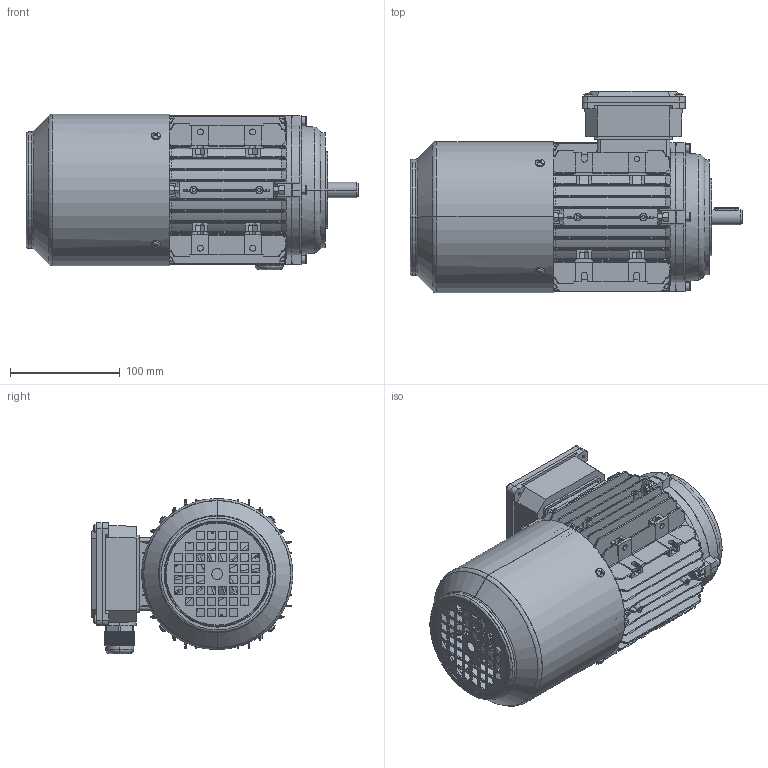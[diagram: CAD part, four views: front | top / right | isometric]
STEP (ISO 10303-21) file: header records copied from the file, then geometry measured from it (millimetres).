
FILE_DESCRIPTION (( 'STEP AP203' ), '1' );
FILE_NAME ('BM3-71 B14_o.STEP', '2024-04-25T08:27:00', ( '' ), ( '' ), 'SwSTEP 2.0', 'SolidWorks 2021', '' );
FILE_SCHEMA (( 'CONFIG_CONTROL_DESIGN' ));
Length unit declared in the file: millimetre
Products named in the file (16): TAN71 ____^BM3-71 B14_o(2)_BM3-71 B14_o; Hexagon nuts grade C GB_GB_FASTENER_NUT_SNC1 M5-N^BM3-71 B14_o(2)_BM3-71 B14_o; MS63-71 __________-1^BM3-71 B14_o(2)_BM3-71 B14_o; BM3-71 B14_o; 80-100________^BM3-71 B14_o(2)_BM3-71 B14_o; TAN71 B14__^BM3-71 B14_o(2)_BM3-71 B14_o; 71________^BM3-71 B14_o(2)_BM3-71 B14_o; TB71____^BM3-71 B14_o(2)_BM3-71 B14_o; Hexagon socket head cap screws GB_GB_FASTENER_SCREWS_HSHCS M5X25-N^BM3-71 B14_o(2)_BM3-71 B14_o; TB71____(__________)^BM3-71 B14_o(2)_BM3-71 B14_o; Hexagon socket head cap screws GB_GB_FASTENER_SCREWS_HSHCS M5X20-N^BM3-71 B14_o(2)_BM3-71 B14_o; MS63-71 __________^BM3-71 B14_o(2)_BM3-71 B14_o; BM3-71 B14_o(2)^BM3-71 B14_o; Cross recessed thread forming screws GB_GB_CROSS_SCREWS_TYPE138 M4X10-N^BM3-71 B14_o(2)_BM3-71 B14_o; Plain parallel keys_GB_CONNECTING_PIECE_KEYS_CSK 5X22^BM3-71 B14_o(2)_BM3-71 B14_o; TB71 ____^BM3-71 B14_o(2)_BM3-71 B14_o
Assembly tree (36 placements, depth 3):
  BM3-71 B14_o
    BM3-71 B14_o(2)^BM3-71 B14_o
      TAN71 ____^BM3-71 B14_o(2)_BM3-71 B14_o
      TB71____^BM3-71 B14_o(2)_BM3-71 B14_o
      80-100________^BM3-71 B14_o(2)_BM3-71 B14_o
      TAN71 B14__^BM3-71 B14_o(2)_BM3-71 B14_o
      MS63-71 __________^BM3-71 B14_o(2)_BM3-71 B14_o
      MS63-71 __________-1^BM3-71 B14_o(2)_BM3-71 B14_o
      Hexagon nuts grade C GB_GB_FASTENER_NUT_SNC1 M5-N^BM3-71 B14_o(2)_BM3-71 B14_o  x8
      Hexagon socket head cap screws GB_GB_FASTENER_SCREWS_HSHCS M5X25-N^BM3-71 B14_o(2)_BM3-71 B14_o  x8
      Cross recessed thread forming screws GB_GB_CROSS_SCREWS_TYPE138 M4X10-N^BM3-71 B14_o(2)_BM3-71 B14_o  x8
      Hexagon socket head cap screws GB_GB_FASTENER_SCREWS_HSHCS M5X20-N^BM3-71 B14_o(2)_BM3-71 B14_o
      Plain parallel keys_GB_CONNECTING_PIECE_KEYS_CSK 5X22^BM3-71 B14_o(2)_BM3-71 B14_o
      TB71 ____^BM3-71 B14_o(2)_BM3-71 B14_o
      71________^BM3-71 B14_o(2)_BM3-71 B14_o
      TB71____(__________)^BM3-71 B14_o(2)_BM3-71 B14_o
Bounding box: 303 x 184.05 x 141.65 mm (x, y, z)
Volume: 645963.9 mm3; surface area: 554207.7 mm2
Topology: 35 solids, 35 shells, 4147 faces, 10743 edges, 6686 vertices
Faces by surface type: plane 1986, cylinder 1061, bspline 522, cone 358, torus 192, sphere 28
Entity records: 136747 total; most frequent: CARTESIAN_POINT 48174, ORIENTED_EDGE 19214, DIRECTION 16540, EDGE_CURVE 9607, VERTEX_POINT 6007, AXIS2_PLACEMENT_3D 5824, LINE 4892, VECTOR 4892
